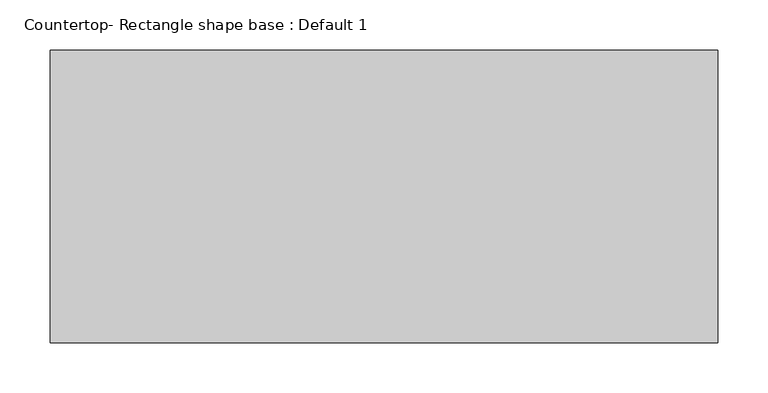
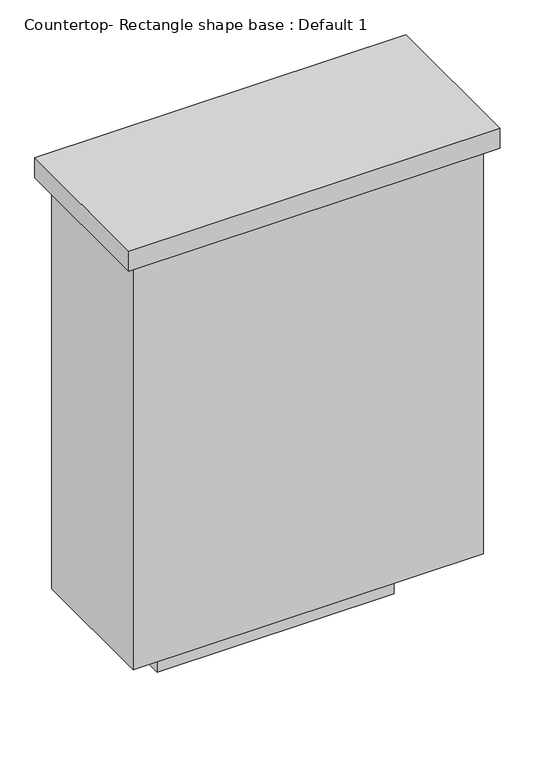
"""IFC4 building model written with IfcOpenShell, lengths in millimetres: proxy geometry, Countertop- Rectangle shape base : Default 1."""

from ifc_helpers import new_model, si_unit, frame, origin, origin_with_axes, place, context, project, spatial, polyline, outline, extrude, source, transform, mapped, element, save


def countertop_rectangle_shape_base_default_1_6301d843(model_context):
    return source(origin(), model_context, "Body", "SweptSolid", [
        extrude(outline(polyline([(428.625, 234.95), (428.625, 527.05), (1095.375, 527.05), (1095.375, 234.95), (428.625, 234.95)])), frame((0.0, 0.0, 876.3), z_axis=(0.0, 0.0, 1.0), x_axis=(1.0, 0.0, 0.0)), (0.0, 0.0, 1.0), 38.1),
        extrude(outline(polyline([(1076.325, 508.0), (1076.325, 254.0), (447.675, 254.0), (447.675, 508.0), (1076.325, 508.0)])), frame((0.0, 0.0, 101.6), z_axis=(0.0, 0.0, 1.0), x_axis=(1.0, 0.0, 0.0)), (0.0, 0.0, 1.0), 774.7),
        extrude(outline(polyline([(974.725, 406.4), (974.725, 355.6), (549.275, 355.6), (549.275, 406.4), (974.725, 406.4)])), origin_with_axes(), (0.0, 0.0, 1.0), 101.6),
    ])


if __name__ == "__main__":
    model = new_model("IFC4")
    model_context = context("Model", 3, world=origin())
    ifc_project = project(units=[si_unit("LENGTHUNIT", "METRE", prefix="MILLI")], contexts=[model_context])
    site = spatial("IfcSite", under=ifc_project)
    building = spatial("IfcBuilding", under=site)
    placement = place(None, origin())
    countertop_rectangle_shape_base_default_1_shape = countertop_rectangle_shape_base_default_1_6301d843(model_context)
    element("IfcBuildingElementProxy", 1, Name="Countertop- Rectangle shape base : Default 1", ObjectType="Countertop- Rectangle shape base : Default 1", at=placement, inside=building, context=model_context, shape_type="MappedRepresentation", body=[
        mapped(countertop_rectangle_shape_base_default_1_shape, transform((0.0, 0.0, 0.0), x_axis=(1.0, 0.0, 0.0), y_axis=(0.0, 1.0, 0.0), z_axis=(0.0, 0.0, 1.0))),
    ])
    save(model, "model.ifc")
